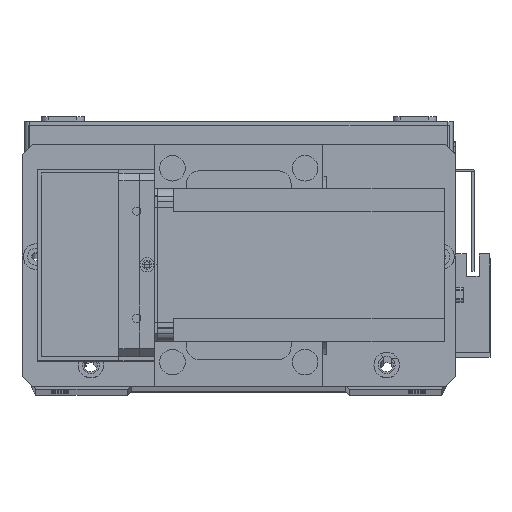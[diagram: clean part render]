
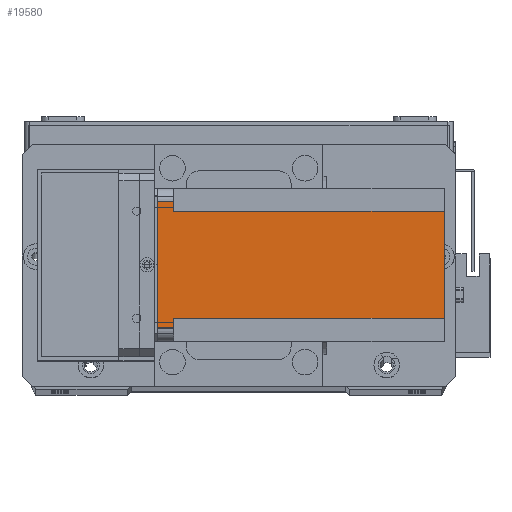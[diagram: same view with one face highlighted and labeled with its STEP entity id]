
A CAD part, top view. The second image highlights one B-rep face of the part: STEP entity #19580.
In plain terms, the highlighted planar face has unit normal (0, 0, 1) as drawn and (-1, 0, 0) by its records, which use the part's own axes.
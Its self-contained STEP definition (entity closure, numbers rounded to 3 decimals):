
#58 = VERTEX_POINT ( 'NONE', #11692 ) ;
#423 = CARTESIAN_POINT ( 'NONE',  ( 0., 0., -112.5 ) ) ;
#1000 = LINE ( 'NONE', #423, #19221 ) ;
#1886 = DIRECTION ( 'NONE',  ( 0., 1., 0. ) ) ;
#1962 = VECTOR ( 'NONE', #1992, 1000. ) ;
#1992 = DIRECTION ( 'NONE',  ( 0., 0., 1. ) ) ;
#2187 = EDGE_LOOP ( 'NONE', ( #5928, #13309, #8313, #10702, #13353, #19998, #22091, #13679 ) ) ;
#4371 = DIRECTION ( 'NONE',  ( 0., 0., -1. ) ) ;
#4927 = VECTOR ( 'NONE', #22513, 1000. ) ;
#5233 = VECTOR ( 'NONE', #27019, 1000. ) ;
#5235 = VERTEX_POINT ( 'NONE', #20167 ) ;
#5698 = DIRECTION ( 'NONE',  ( 0., -1., 0. ) ) ;
#5912 = EDGE_CURVE ( 'NONE', #18370, #13163, #21736, .T. ) ;
#5928 = ORIENTED_EDGE ( 'NONE', *, *, #18577, .F. ) ;
#5934 = EDGE_CURVE ( 'NONE', #24588, #58, #9329, .T. ) ;
#6607 = FACE_OUTER_BOUND ( 'NONE', #2187, .T. ) ;
#6901 = VERTEX_POINT ( 'NONE', #12838 ) ;
#7312 = VERTEX_POINT ( 'NONE', #26869 ) ;
#7698 = VECTOR ( 'NONE', #4371, 1000. ) ;
#7892 = DIRECTION ( 'NONE',  ( 0., -1., 0. ) ) ;
#8313 = ORIENTED_EDGE ( 'NONE', *, *, #15609, .F. ) ;
#9329 = LINE ( 'NONE', #16878, #1962 ) ;
#10702 = ORIENTED_EDGE ( 'NONE', *, *, #21850, .T. ) ;
#10913 = VECTOR ( 'NONE', #11400, 1000. ) ;
#11400 = DIRECTION ( 'NONE',  ( 0., 1., 0. ) ) ;
#11692 = CARTESIAN_POINT ( 'NONE',  ( 0., 5., 0. ) ) ;
#11818 = LINE ( 'NONE', #29525, #5233 ) ;
#12545 = CARTESIAN_POINT ( 'NONE',  ( 0., 0., 0. ) ) ;
#12721 = CARTESIAN_POINT ( 'NONE',  ( 0., 51., -6.5 ) ) ;
#12838 = CARTESIAN_POINT ( 'NONE',  ( 0., 9., -112.5 ) ) ;
#13163 = VERTEX_POINT ( 'NONE', #13396 ) ;
#13309 = ORIENTED_EDGE ( 'NONE', *, *, #5934, .T. ) ;
#13353 = ORIENTED_EDGE ( 'NONE', *, *, #5912, .F. ) ;
#13396 = CARTESIAN_POINT ( 'NONE',  ( 0., 55., -6.5 ) ) ;
#13679 = ORIENTED_EDGE ( 'NONE', *, *, #29647, .F. ) ;
#14435 = VERTEX_POINT ( 'NONE', #16067 ) ;
#15179 = VECTOR ( 'NONE', #1886, 1000. ) ;
#15594 = CARTESIAN_POINT ( 'NONE',  ( 0., 0., -112.5 ) ) ;
#15609 = EDGE_CURVE ( 'NONE', #7312, #58, #18145, .T. ) ;
#16067 = CARTESIAN_POINT ( 'NONE',  ( 0., 51., -112.5 ) ) ;
#16878 = CARTESIAN_POINT ( 'NONE',  ( 0., 5., -112.5 ) ) ;
#17555 = LINE ( 'NONE', #28818, #10913 ) ;
#18145 = LINE ( 'NONE', #12545, #4927 ) ;
#18370 = VERTEX_POINT ( 'NONE', #12721 ) ;
#18577 = EDGE_CURVE ( 'NONE', #24588, #5235, #17555, .T. ) ;
#19221 = VECTOR ( 'NONE', #7892, 1000. ) ;
#19239 = CARTESIAN_POINT ( 'NONE',  ( 0., 60., -6.5 ) ) ;
#19580 = ADVANCED_FACE ( 'NONE', ( #6607 ), #25386, .T. ) ;
#19998 = ORIENTED_EDGE ( 'NONE', *, *, #23774, .F. ) ;
#20091 = LINE ( 'NONE', #21681, #7698 ) ;
#20167 = CARTESIAN_POINT ( 'NONE',  ( 0., 9., -6.5 ) ) ;
#20553 = DIRECTION ( 'NONE',  ( -1., 0., 0. ) ) ;
#21681 = CARTESIAN_POINT ( 'NONE',  ( 0., 55., -112.5 ) ) ;
#21736 = LINE ( 'NONE', #19239, #15179 ) ;
#21850 = EDGE_CURVE ( 'NONE', #7312, #13163, #20091, .T. ) ;
#22091 = ORIENTED_EDGE ( 'NONE', *, *, #28384, .T. ) ;
#22297 = LINE ( 'NONE', #30219, #23066 ) ;
#22513 = DIRECTION ( 'NONE',  ( 0., -1., 0. ) ) ;
#23066 = VECTOR ( 'NONE', #25218, 1000. ) ;
#23774 = EDGE_CURVE ( 'NONE', #14435, #18370, #22297, .T. ) ;
#24173 = CARTESIAN_POINT ( 'NONE',  ( 0., 5., -6.5 ) ) ;
#24588 = VERTEX_POINT ( 'NONE', #24173 ) ;
#25218 = DIRECTION ( 'NONE',  ( 0., 0., 1. ) ) ;
#25386 = PLANE ( 'NONE',  #27835 ) ;
#26869 = CARTESIAN_POINT ( 'NONE',  ( 0., 55., 0. ) ) ;
#27019 = DIRECTION ( 'NONE',  ( 0., 0., -1. ) ) ;
#27835 = AXIS2_PLACEMENT_3D ( 'NONE', #15594, #20553, #5698 ) ;
#28384 = EDGE_CURVE ( 'NONE', #14435, #6901, #1000, .T. ) ;
#28818 = CARTESIAN_POINT ( 'NONE',  ( 0., 0., -6.5 ) ) ;
#29525 = CARTESIAN_POINT ( 'NONE',  ( 0., 9., -112.5 ) ) ;
#29647 = EDGE_CURVE ( 'NONE', #5235, #6901, #11818, .T. ) ;
#30219 = CARTESIAN_POINT ( 'NONE',  ( 0., 51., -112.5 ) ) ;
